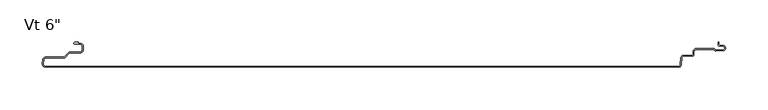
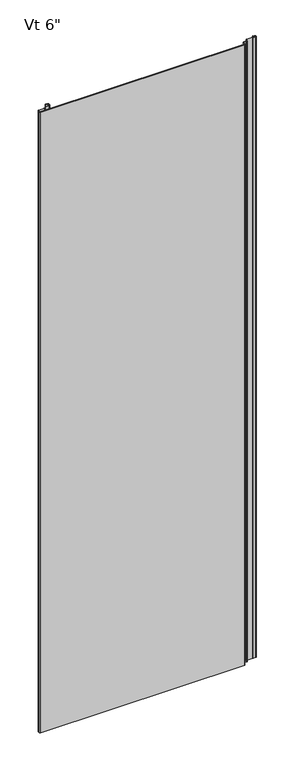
"""IFC4 building model written with IfcOpenShell, lengths in millimetres: plate geometry."""

import ifcopenshell
import ifcopenshell.guid

model = None  # the IFC model being written
_history = None  # IfcOwnerHistory: only IFC2X3 demands one
_inside = {}  # id of a spatial element -> (the spatial element, [elements in it])
_under = {}  # id of a project, library or spatial element -> (it, [spatial elements below it])
_declared = {}  # id of a project -> (the project, [libraries it declares])
_typed = {}  # id of a type object -> (the type object, [elements of that type])
_made_of = {}  # id of a material, layer set ... -> (it, [elements and type objects made of it])


def new_model(schema):
    """Start an empty IFC model of exactly this schema.

    Asked for "IFC4X3", IfcOpenShell would pick the latest addendum, in which some entities
    have other attributes; the version numbers below select the first issue.
    IFC2X3 requires an IfcOwnerHistory on every rooted entity: one is made here for all.
    """
    global model, _history
    if schema == "IFC4X3":
        model = ifcopenshell.file(schema_version=(4, 3, 0, 0))
    else:
        model = ifcopenshell.file(schema=schema)
    _inside.clear()
    _under.clear()
    _declared.clear()
    _typed.clear()
    _made_of.clear()
    _history = None
    if model.schema == "IFC2X3":
        org = make("IfcOrganization", Name="unknown")
        user = make(
            "IfcPersonAndOrganization",
            ThePerson=make("IfcPerson", FamilyName="unknown"),
            TheOrganization=org,
        )
        app = make(
            "IfcApplication",
            ApplicationDeveloper=org,
            Version="unknown",
            ApplicationFullName="unknown",
            ApplicationIdentifier="unknown",
        )
        _history = make(
            "IfcOwnerHistory",
            OwningUser=user,
            OwningApplication=app,
            ChangeAction="ADDED",
            CreationDate=0,
        )
    return model


def make(cls, **values):
    """One entity of the class cls with the attributes given. An attribute that is None is left unset."""
    return model.create_entity(
        cls, **{name: value for name, value in values.items() if value is not None}
    )


def rooted(cls, **values):
    """An entity with a GlobalId (a new one), such as an element, a storey or a relation."""
    return make(cls, GlobalId=ifcopenshell.guid.new(), OwnerHistory=_history, **values)


def si_unit(unit_type, name, prefix=None):
    """IfcSIUnit, for example si_unit("LENGTHUNIT", "METRE", prefix="MILLI")."""
    return make("IfcSIUnit", UnitType=unit_type, Prefix=prefix, Name=name)


def assignment(units):
    """IfcUnitAssignment: the units of a project."""
    return None if units is None else make("IfcUnitAssignment", Units=units)


def point(xyz):
    """IfcCartesianPoint."""
    return None if xyz is None else make("IfcCartesianPoint", Coordinates=xyz)


def direction(xyz):
    """IfcDirection."""
    return None if xyz is None else make("IfcDirection", DirectionRatios=xyz)


def frame(location, z_axis=None, x_axis=None):
    """IfcAxis2Placement3D, a coordinate frame: its origin and axes. An axis left out is left unset."""
    return make(
        "IfcAxis2Placement3D",
        Location=point(location),
        Axis=direction(z_axis),
        RefDirection=direction(x_axis),
    )


def frame_2d(location, x_axis=None):
    """IfcAxis2Placement2D, a coordinate frame in the plane: its origin and x axis."""
    return make(
        "IfcAxis2Placement2D", Location=point(location), RefDirection=direction(x_axis)
    )


def origin():
    """The frame at (0, 0, 0) with its axes left unset."""
    return frame((0.0, 0.0, 0.0))


def origin_with_axes():
    """The frame at (0, 0, 0) with the z axis (0, 0, 1) and the x axis (1, 0, 0) written out."""
    return frame((0.0, 0.0, 0.0), z_axis=(0.0, 0.0, 1.0), x_axis=(1.0, 0.0, 0.0))


def place(relative_to, where):
    """IfcLocalPlacement: puts the frame where relative to a parent placement (None: the world)."""
    return make(
        "IfcLocalPlacement", PlacementRelTo=relative_to, RelativePlacement=where
    )


def context(
    kind, dimensions, precision=None, world=None, true_north=None, identifier=None
):
    """IfcGeometricRepresentationContext, for example the 3D "Model" context."""
    return make(
        "IfcGeometricRepresentationContext",
        ContextIdentifier=identifier,
        ContextType=kind,
        CoordinateSpaceDimension=dimensions,
        Precision=precision,
        WorldCoordinateSystem=world,
        TrueNorth=true_north,
    )


def project(units=None, contexts=None):
    """IfcProject with its units and contexts."""
    return rooted(
        "IfcProject",
        Name="project",
        RepresentationContexts=contexts,
        UnitsInContext=assignment(units),
    )


def spatial(cls, under=None, at=None, **own):
    """A site, building, storey or space (cls), placed at a placement, below another one or the project."""
    s = rooted(cls, ObjectPlacement=at, **own)
    if under is not None:
        _under.setdefault(under.id(), (under, []))[1].append(s)
    return s


def polyline(points):
    """IfcPolyline through the points."""
    return make("IfcPolyline", Points=[point(p) for p in points])


def circle_curve(where, radius):
    """IfcCircle in the frame where."""
    return make("IfcCircle", Position=where, Radius=radius)


def trimmed(basis, trim1, trim2, sense, master):
    """IfcTrimmedCurve: the piece of a basis curve between two trims."""
    return make(
        "IfcTrimmedCurve",
        BasisCurve=basis,
        Trim1=trim1,
        Trim2=trim2,
        SenseAgreement=sense,
        MasterRepresentation=master,
    )


def segment(curve, same_sense, transition):
    """IfcCompositeCurveSegment."""
    return make(
        "IfcCompositeCurveSegment",
        Transition=transition,
        SameSense=same_sense,
        ParentCurve=curve,
    )


def composite_curve(segments, self_intersect=None):
    """IfcCompositeCurve: segments joined end to end."""
    return make("IfcCompositeCurve", Segments=segments, SelfIntersect=self_intersect)


def outline(outer, holes=None, kind="AREA"):
    """IfcArbitraryClosedProfileDef: a profile drawn as a closed curve; with holes, ...WithVoids."""
    if holes is None:
        return make("IfcArbitraryClosedProfileDef", ProfileType=kind, OuterCurve=outer)
    return make(
        "IfcArbitraryProfileDefWithVoids",
        ProfileType=kind,
        OuterCurve=outer,
        InnerCurves=holes,
    )


def extrude(swept, where, along, depth):
    """IfcExtrudedAreaSolid: the profile swept, set in the frame where, extruded along a direction by depth."""
    return make(
        "IfcExtrudedAreaSolid",
        SweptArea=swept,
        Position=where,
        ExtrudedDirection=direction(along),
        Depth=depth,
    )


def shape(context_of_items, identifier, shape_type, items):
    """IfcShapeRepresentation: the items that make up one representation, for example the "Body"."""
    return make(
        "IfcShapeRepresentation",
        ContextOfItems=context_of_items,
        RepresentationIdentifier=identifier,
        RepresentationType=shape_type,
        Items=items,
    )


def source(mapping_origin, context_of_items, identifier, shape_type, items):
    """IfcRepresentationMap: a shape defined once, which mapped items show again and again."""
    return make(
        "IfcRepresentationMap",
        MappingOrigin=mapping_origin,
        MappedRepresentation=shape(context_of_items, identifier, shape_type, items),
    )


def transform(
    local_origin,
    x_axis=None,
    y_axis=None,
    z_axis=None,
    scale=None,
    scale2=None,
    scale3=None,
    uniform=True,
):
    """IfcCartesianTransformationOperator3D, or its non-uniform kind. x_axis, y_axis, z_axis: its Axis1, 2, 3."""
    if uniform:
        return make(
            "IfcCartesianTransformationOperator3D",
            Axis1=direction(x_axis),
            Axis2=direction(y_axis),
            LocalOrigin=point(local_origin),
            Scale=scale,
            Axis3=direction(z_axis),
        )
    return make(
        "IfcCartesianTransformationOperator3DnonUniform",
        Axis1=direction(x_axis),
        Axis2=direction(y_axis),
        LocalOrigin=point(local_origin),
        Scale=scale,
        Axis3=direction(z_axis),
        Scale2=scale2,
        Scale3=scale3,
    )


def mapped(mapping_source, mapping_target):
    """IfcMappedItem: shows the shape of a source again, moved by a transform."""
    return make(
        "IfcMappedItem", MappingSource=mapping_source, MappingTarget=mapping_target
    )


def made_of(thing, what):
    """Note that an element or type object is made of a material, layer set ...; save() writes the relation."""
    if what is not None:
        _made_of.setdefault(what.id(), (what, []))[1].append(thing)
    return thing


def element(
    cls,
    number,
    at=None,
    inside=None,
    cuts=None,
    type_object=None,
    material=None,
    context=None,
    identifier="Body",
    shape_type=None,
    held_by="IfcProductDefinitionShape",
    body=None,
    shapes=None,
    **own,
):
    """One element of the class cls, such as IfcWall. Its Tag is "e" and its number.

    at: its placement. inside: the storey or other place that contains it. cuts: it is an
    opening in that element (IfcRelVoidsElement). A single representation is given by context,
    identifier, shape_type and body (its items); several are given by shapes. held_by: the class
    of the entity that holds the representations. save() writes the other relations.
    """
    e = rooted(cls, Tag="e%d" % number, ObjectPlacement=at, **own)
    if body is not None:
        shapes = [shape(context, identifier, shape_type, body)]
    if shapes is not None:
        e.Representation = make(held_by, Representations=shapes)
    if inside is not None:
        _inside.setdefault(inside.id(), (inside, []))[1].append(e)
    if cuts is not None:
        rooted(
            "IfcRelVoidsElement", RelatingBuildingElement=cuts, RelatedOpeningElement=e
        )
    if type_object is not None:
        _typed.setdefault(type_object.id(), (type_object, []))[1].append(e)
    return made_of(e, material)


def aggregate(whole, parts):
    """IfcRelAggregates: a whole, such as a stair, and the parts it consists of."""
    return rooted("IfcRelAggregates", RelatingObject=whole, RelatedObjects=parts)


def save(model, path):
    """Write the relations noted so far, then the file.

    IfcRelAggregates (storeys below a building ...), IfcRelContainedInSpatialStructure (elements
    in a storey), IfcRelDefinesByType, IfcRelAssociatesMaterial and IfcRelDeclares: one each for
    every whole, place, type object, material and project.
    """
    for whole, parts in _under.values():
        aggregate(whole, parts)
    for where, things in _inside.values():
        rooted(
            "IfcRelContainedInSpatialStructure",
            RelatedElements=things,
            RelatingStructure=where,
        )
    for kind, things in _typed.values():
        rooted("IfcRelDefinesByType", RelatedObjects=things, RelatingType=kind)
    for what, things in _made_of.values():
        rooted("IfcRelAssociatesMaterial", RelatedObjects=things, RelatingMaterial=what)
    for by, libraries in _declared.values():
        rooted("IfcRelDeclares", RelatingContext=by, RelatedDefinitions=libraries)
    model.write(path)


def plate_c20b4eec(model_context):
    return source(origin(), model_context, "Body", "SweptSolid", [
        extrude(outline(composite_curve([segment(polyline([(-417.0087549, -148.5184064), (-416.5690675, -143.494441)]), True, "CONTINUOUS"), segment(trimmed(circle_curve(frame_2d((-412.9198392, -144.1052421)), 3.6999926), [point((-416.5690675, -143.494441))], [point((-412.9198392, -140.4052495))], False, "CARTESIAN"), True, "CONTINUOUS"), segment(polyline([(-412.9198392, -140.4052495), (-391.7773997, -140.4052495)]), True, "CONTINUOUS"), segment(trimmed(circle_curve(frame_2d((-391.7773997, -139.1052521)), 1.2999974), [point((-391.7773997, -140.4052495))], [point((-390.8581627, -140.0244891))], True, "CARTESIAN"), True, "CONTINUOUS"), segment(polyline([(-390.8581627, -140.0244891), (-386.0297453, -135.1960716)]), True, "CONTINUOUS"), segment(trimmed(circle_curve(frame_2d((-384.1205608, -137.1052561)), 2.6999946), [point((-386.0297453, -135.1960716))], [point((-384.1205608, -134.4052615))], False, "CARTESIAN"), True, "CONTINUOUS"), segment(polyline([(-384.1205608, -134.4052615), (-372.3096717, -134.4052615)]), True, "CONTINUOUS"), segment(trimmed(circle_curve(frame_2d((-372.3096717, -132.0552662)), 2.3499953), [point((-372.3096717, -134.4052615))], [point((-369.9596764, -132.0552662))], True, "CARTESIAN"), True, "CONTINUOUS"), segment(polyline([(-369.9596764, -132.0552662), (-369.9596764, -127.655275)]), True, "CONTINUOUS"), segment(trimmed(circle_curve(frame_2d((-372.3096717, -127.655275)), 2.3499953), [point((-369.9596764, -127.655275))], [point((-372.3096717, -125.3052797))], True, "CARTESIAN"), True, "CONTINUOUS"), segment(polyline([(-372.3096717, -125.3052797), (-378.8289779, -125.3052797)]), True, "CONTINUOUS"), segment(trimmed(circle_curve(frame_2d((-378.7686908, -124.1067974)), 1.1999976), [point((-378.8289779, -125.3052797))], [point((-379.9683001, -124.0762755))], False, "CARTESIAN"), True, "CONTINUOUS"), segment(trimmed(circle_curve(frame_2d((-378.7686908, -124.1067974)), 1.1999976), [point((-379.9683001, -124.0762755))], [point((-378.7671761, -122.9068008))], False, "CARTESIAN"), True, "CONTINUOUS"), segment(polyline([(-378.7671761, -122.9068008), (-375.0087827, -122.9068008), (-375.0087827, -124.3052797), (-372.3096717, -124.3052797)]), True, "CONTINUOUS"), segment(trimmed(circle_curve(frame_2d((-372.3096717, -127.655275)), 3.3499953), [point((-372.3096717, -124.3052797))], [point((-368.9596764, -127.655275))], False, "CARTESIAN"), True, "CONTINUOUS"), segment(polyline([(-368.9596764, -127.655275), (-368.9596764, -132.0552662)]), True, "CONTINUOUS"), segment(trimmed(circle_curve(frame_2d((-372.3096717, -132.0552662)), 3.3499953), [point((-368.9596764, -132.0552662))], [point((-372.3096717, -135.4052615))], False, "CARTESIAN"), True, "CONTINUOUS"), segment(polyline([(-372.3096717, -135.4052615), (-384.1205608, -135.4052615)]), True, "CONTINUOUS"), segment(trimmed(circle_curve(frame_2d((-384.1205608, -137.1052561)), 1.6999946), [point((-384.1205608, -135.4052615))], [point((-385.3226385, -135.9031784))], True, "CARTESIAN"), True, "CONTINUOUS"), segment(polyline([(-385.3226385, -135.9031784), (-390.8247096, -141.4052495), (-412.9198392, -141.4052495)]), True, "CONTINUOUS"), segment(trimmed(circle_curve(frame_2d((-412.9198392, -144.1052421)), 2.6999926), [point((-412.9198392, -141.4052495))], [point((-415.5765709, -143.6238515))], True, "CARTESIAN"), True, "CONTINUOUS"), segment(polyline([(-415.5765709, -143.6238515), (-416.0125699, -148.6056723)]), True, "CONTINUOUS"), segment(trimmed(circle_curve(frame_2d((-413.4521176, -148.829758)), 2.5702393), [point((-416.0125699, -148.6056723))], [point((-413.509446, -151.3993578))], True, "CARTESIAN"), True, "CONTINUOUS"), segment(polyline([(-413.509446, -151.3993578), (332.5384359, -151.3993578)]), True, "CONTINUOUS"), segment(trimmed(circle_curve(frame_2d((332.5384359, -149.4493637)), 1.9499941), [point((332.5384359, -151.3993578))], [point((334.4810097, -149.6193169))], True, "CARTESIAN"), True, "CONTINUOUS"), segment(polyline([(334.4810097, -149.6193169), (335.2215397, -141.1550205)]), True, "CONTINUOUS"), segment(trimmed(circle_curve(frame_2d((338.2400056, -141.419102)), 3.0299959), [point((335.2215397, -141.1550205))], [point((338.3657441, -138.3917162))], False, "CARTESIAN"), True, "CONTINUOUS"), segment(polyline([(338.3657441, -138.3917162), (348.4586765, -138.3917162)]), True, "CONTINUOUS"), segment(trimmed(circle_curve(frame_2d((348.4595944, -137.4425632)), 0.9491534), [point((348.4586765, -138.3917162))], [point((349.4087478, -137.4425632))], True, "CARTESIAN"), True, "CONTINUOUS"), segment(polyline([(349.4087478, -137.4425632), (349.4087475, -134.3011631)]), True, "CONTINUOUS"), segment(trimmed(circle_curve(frame_2d((353.4087415, -134.3011631)), 3.999994), [point((349.4087475, -134.3011631))], [point((353.4087415, -130.3011691))], False, "CARTESIAN"), True, "CONTINUOUS"), segment(polyline([(353.4087415, -130.3011691), (374.5895515, -130.3011691), (375.7334028, -132.2823775), (384.706811, -131.9271172)]), True, "CONTINUOUS"), segment(trimmed(circle_curve(frame_2d((384.6236622, -129.8268886)), 2.1018739), [point((384.706811, -131.9271172))], [point((384.7037148, -127.7265397))], True, "CARTESIAN"), True, "CONTINUOUS"), segment(polyline([(384.7037148, -127.7265397), (380.6977997, -127.4821247)]), True, "CONTINUOUS"), segment(trimmed(circle_curve(frame_2d((380.8099653, -125.6437512)), 1.8417922), [point((380.6977997, -127.4821247))], [point((378.9686884, -125.6873122))], False, "CARTESIAN"), True, "CONTINUOUS"), segment(polyline([(378.9686884, -125.6873122), (378.9686884, -122.9027656), (379.9686884, -122.9027656), (379.9686884, -125.6731984)]), True, "CONTINUOUS"), segment(trimmed(circle_curve(frame_2d((380.8099653, -125.6437512)), 0.8417922), [point((379.9686884, -125.6731984))], [point((380.7587, -126.4839809))], True, "CARTESIAN"), True, "CONTINUOUS"), segment(polyline([(380.7587, -126.4839809), (384.7543204, -126.7277677)]), True, "CONTINUOUS"), segment(trimmed(circle_curve(frame_2d((384.6236622, -129.8268886)), 3.1018739), [point((384.7543204, -126.7277677))], [point((384.7463704, -132.9263344))], False, "CARTESIAN"), True, "CONTINUOUS"), segment(polyline([(384.7463704, -132.9263344), (376.0344401, -133.2712428)]), True, "CONTINUOUS"), segment(trimmed(circle_curve(frame_2d((375.987224, -131.8220146)), 1.4499971), [point((376.0344401, -133.2712428))], [point((374.7314897, -132.5470132))], False, "CARTESIAN"), True, "CONTINUOUS"), segment(polyline([(374.7314897, -132.5470132), (374.0122013, -131.3011691), (353.4087415, -131.3011691)]), True, "CONTINUOUS"), segment(trimmed(circle_curve(frame_2d((353.4087415, -134.3011631)), 2.999994), [point((353.4087415, -131.3011691))], [point((350.4087475, -134.3011631))], True, "CARTESIAN"), True, "CONTINUOUS"), segment(polyline([(350.4087475, -134.3011631), (350.4087475, -137.4425632)]), True, "CONTINUOUS"), segment(trimmed(circle_curve(frame_2d((348.4595944, -137.4425632)), 1.9491534), [point((350.4087475, -137.4425632))], [point((348.458279, -139.3917162))], False, "CARTESIAN"), True, "CONTINUOUS"), segment(polyline([(348.458279, -139.3917162), (338.3429135, -139.3917162)]), True, "CONTINUOUS"), segment(trimmed(circle_curve(frame_2d((338.2400056, -141.419102)), 2.0299959), [point((338.3429135, -139.3917162))], [point((336.2177344, -141.2421762))], True, "CARTESIAN"), True, "CONTINUOUS"), segment(polyline([(336.2177344, -141.2421762), (335.4771973, -149.7065539)]), True, "CONTINUOUS"), segment(trimmed(circle_curve(frame_2d((332.5384288, -149.449445)), 2.9499941), [point((335.4771973, -149.7065539))], [point((332.5384307, -152.3994391))], False, "CARTESIAN"), True, "CONTINUOUS"), segment(polyline([(332.5384307, -152.3994391), (-413.4521083, -152.3999161)]), True, "CONTINUOUS"), segment(trimmed(circle_curve(frame_2d((-413.4521105, -148.8296768)), 3.5702393), [point((-413.4521083, -152.3999161))], [point((-417.0087549, -148.5184064))], False, "CARTESIAN"), True, "CONTINUOUS")], self_intersect=False)), origin_with_axes(), (0.0, 0.0, 1.0), 2400.0),
    ])


if __name__ == "__main__":
    model = new_model("IFC4")
    model_context = context("Model", 3, world=origin())
    ifc_project = project(units=[si_unit("LENGTHUNIT", "METRE", prefix="MILLI")], contexts=[model_context])
    site = spatial("IfcSite", under=ifc_project)
    building = spatial("IfcBuilding", under=site)
    placement = place(None, origin())
    plate_shape = plate_c20b4eec(model_context)
    element("IfcPlate", 1, ObjectType="KIP-30-Karrier-KP-R19-CP-Vt-FL3-8_SL : Vt 6\"", at=placement, inside=building, context=model_context, shape_type="MappedRepresentation", body=[
        mapped(plate_shape, transform((0.0, 0.0, 0.0), x_axis=(1.0, 0.0, 0.0), y_axis=(0.0, 1.0, 0.0), z_axis=(0.0, 0.0, 1.0))),
    ])
    save(model, "model.ifc")
